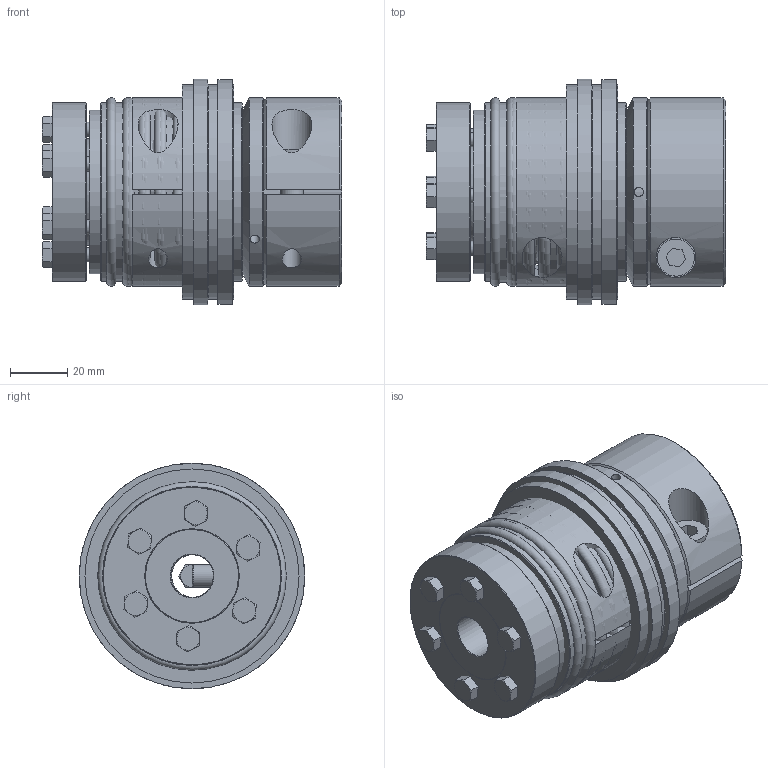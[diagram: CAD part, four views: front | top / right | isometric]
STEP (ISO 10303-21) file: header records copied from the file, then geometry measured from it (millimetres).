
FILE_DESCRIPTION( ( 'Unknown' ), '1' );
FILE_NAME( 'C:/Dokumente und Einstellungen/SKarpstein/Desktop/Korrigierte 3D Modelle/KBK-B-AK/KBK-BAK-60-105.stp', 'Unknown', ( 'Unknown' ), ( 'Unknown' ), 'XStep 1.0', 'Unknown', ' ' );
FILE_SCHEMA( ( 'automotive_design' ) );
Length unit declared in the file: millimetre
Products named in the file (13): Assem1; Assem2; Assem3; DR60_Standard; Hex Screw GradeC_DIN_ISO 4018 - M5 x 25-NN; BA60_Standard; Zylinderschraube DIN 912_4; Stellring 60; Druckring 60; KBK L-K-60 Grundkörper; Klemmnabe 60; Flansch BK60; BK60_Standard_0
Bounding box: 105 x 79 x 79 mm (x, y, z)
Volume: 601288 mm3; surface area: 253869.2 mm2
Topology: 34 solids, 34 shells, 564 faces, 1169 edges, 745 vertices
Faces by surface type: plane 244, cone 153, cylinder 131, torus 36
Full cylindrical faces by diameter (mm): 3.242 x6, 4 x6, 4.2 x18, 5 x13, 5.5 x18, 6.647 x2, 8 x3, 8.5 x2, 13 x3, 14 x2, 15 x5, 32 x2, 33 x2, 35 x4, 37.937 x3, 42 x2, 46 x4, 46.5 x2, 47 x2, 56.3 x4, 57.3 x4, 61.3 x2, 62.5 x6, 66 x2, 75 x4, 79 x2
Entity records: 4758 total; most frequent: CARTESIAN_POINT 1155, DIRECTION 732, ORIENTED_EDGE 472, AXIS2_PLACEMENT_3D 343, EDGE_LOOP 330, EDGE_CURVE 236, FACE_OUTER_BOUND 232, VERTEX_POINT 204
